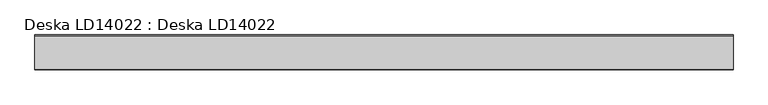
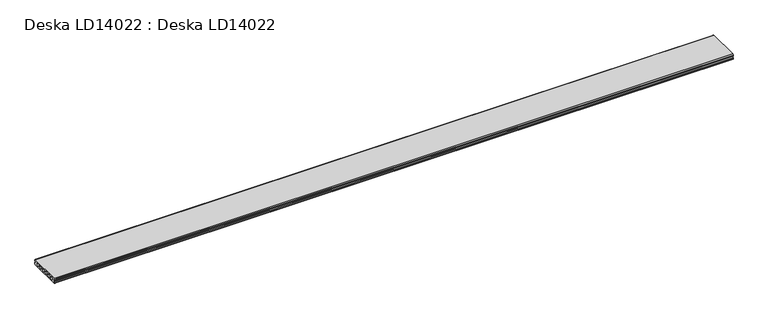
"""IFC4 building model written with IfcOpenShell, lengths in millimetres: proxy geometry, Deska LD14022 : Deska LD14022."""

from ifc_helpers import new_model, si_unit, point, frame, frame_2d, origin, place, context, project, spatial, polyline, circle_curve, trimmed, segment, composite_curve, outline, extrude, source, transform, mapped, element, save


def deska_ld14022_deska_ld14022_c7e6d53c(model_context):
    return source(origin(), model_context, "Body", "SweptSolid", [
        extrude(outline(composite_curve([segment(polyline([(-7.0, 14.5), (-7.0, 7.5), (0.0, 7.5), (0.0, 3.0)]), True, "CONTINUOUS"), segment(trimmed(circle_curve(frame_2d((-3.0, 3.0)), 3.0), [point((0.0, 3.0))], [point((-3.0, 0.0))], False, "CARTESIAN"), True, "CONTINUOUS"), segment(polyline([(-3.0, 0.0), (-137.0, 0.0)]), True, "CONTINUOUS"), segment(trimmed(circle_curve(frame_2d((-137.0, 3.0)), 3.0), [point((-137.0, 0.0))], [point((-140.0, 3.0))], False, "CARTESIAN"), True, "CONTINUOUS"), segment(polyline([(-140.0, 3.0), (-140.0, 7.5), (-133.0, 7.5), (-133.0, 14.5), (-140.0, 14.5), (-140.0, 19.0)]), True, "CONTINUOUS"), segment(trimmed(circle_curve(frame_2d((-137.0, 19.0)), 3.0), [point((-140.0, 19.0))], [point((-137.0, 22.0))], False, "CARTESIAN"), True, "CONTINUOUS"), segment(polyline([(-137.0, 22.0), (-3.0, 22.0)]), True, "CONTINUOUS"), segment(trimmed(circle_curve(frame_2d((-3.0, 19.0)), 3.0), [point((-3.0, 22.0))], [point((0.0, 19.0))], False, "CARTESIAN"), True, "CONTINUOUS"), segment(polyline([(0.0, 19.0), (0.0, 14.5), (-7.0, 14.5)]), True, "CONTINUOUS")], self_intersect=False), holes=[composite_curve([segment(trimmed(circle_curve(frame_2d((-21.0, 11.0)), 6.0), [point((-15.0, 11.0))], [point((-27.0, 11.0))], True, "CARTESIAN"), True, "CONTINUOUS"), segment(trimmed(circle_curve(frame_2d((-21.0, 11.0)), 6.0), [point((-27.0, 11.0))], [point((-15.0, 11.0))], True, "CARTESIAN"), True, "CONTINUOUS")], self_intersect=False), composite_curve([segment(trimmed(circle_curve(frame_2d((-41.0, 11.0)), 6.0), [point((-35.0, 11.0))], [point((-47.0, 11.0))], True, "CARTESIAN"), True, "CONTINUOUS"), segment(trimmed(circle_curve(frame_2d((-41.0, 11.0)), 6.0), [point((-47.0, 11.0))], [point((-35.0, 11.0))], True, "CARTESIAN"), True, "CONTINUOUS")], self_intersect=False), composite_curve([segment(trimmed(circle_curve(frame_2d((-60.0, 11.0)), 6.0), [point((-54.0, 11.0))], [point((-66.0, 11.0))], True, "CARTESIAN"), True, "CONTINUOUS"), segment(trimmed(circle_curve(frame_2d((-60.0, 11.0)), 6.0), [point((-66.0, 11.0))], [point((-54.0, 11.0))], True, "CARTESIAN"), True, "CONTINUOUS")], self_intersect=False), composite_curve([segment(trimmed(circle_curve(frame_2d((-80.0, 11.0)), 6.0), [point((-74.0, 11.0))], [point((-86.0, 11.0))], True, "CARTESIAN"), True, "CONTINUOUS"), segment(trimmed(circle_curve(frame_2d((-80.0, 11.0)), 6.0), [point((-86.0, 11.0))], [point((-74.0, 11.0))], True, "CARTESIAN"), True, "CONTINUOUS")], self_intersect=False), composite_curve([segment(trimmed(circle_curve(frame_2d((-99.0, 11.0)), 6.0), [point((-93.0, 11.0))], [point((-105.0, 11.0))], True, "CARTESIAN"), True, "CONTINUOUS"), segment(trimmed(circle_curve(frame_2d((-99.0, 11.0)), 6.0), [point((-105.0, 11.0))], [point((-93.0, 11.0))], True, "CARTESIAN"), True, "CONTINUOUS")], self_intersect=False), composite_curve([segment(trimmed(circle_curve(frame_2d((-119.0, 11.0)), 6.0), [point((-113.0, 11.0))], [point((-125.0, 11.0))], True, "CARTESIAN"), True, "CONTINUOUS"), segment(trimmed(circle_curve(frame_2d((-119.0, 11.0)), 6.0), [point((-125.0, 11.0))], [point((-113.0, 11.0))], True, "CARTESIAN"), True, "CONTINUOUS")], self_intersect=False)]), frame((0.0, 0.0, 0.0), z_axis=(1.0, 0.0, 0.0), x_axis=(0.0, 1.0, 0.0)), (0.0, 0.0, 1.0), 2800.0),
    ])


if __name__ == "__main__":
    model = new_model("IFC4")
    model_context = context("Model", 3, world=origin())
    ifc_project = project(units=[si_unit("LENGTHUNIT", "METRE", prefix="MILLI")], contexts=[model_context])
    site = spatial("IfcSite", under=ifc_project)
    building = spatial("IfcBuilding", under=site)
    placement = place(None, origin())
    deska_ld14022_deska_ld14022_shape = deska_ld14022_deska_ld14022_c7e6d53c(model_context)
    element("IfcBuildingElementProxy", 1, Name="Deska LD14022 : Deska LD14022", ObjectType="Deska LD14022 : Deska LD14022", at=placement, inside=building, context=model_context, shape_type="MappedRepresentation", body=[
        mapped(deska_ld14022_deska_ld14022_shape, transform((0.0, 0.0, 0.0), x_axis=(1.0, 0.0, 0.0), y_axis=(0.0, 1.0, 0.0), z_axis=(0.0, 0.0, 1.0))),
    ])
    save(model, "model.ifc")
